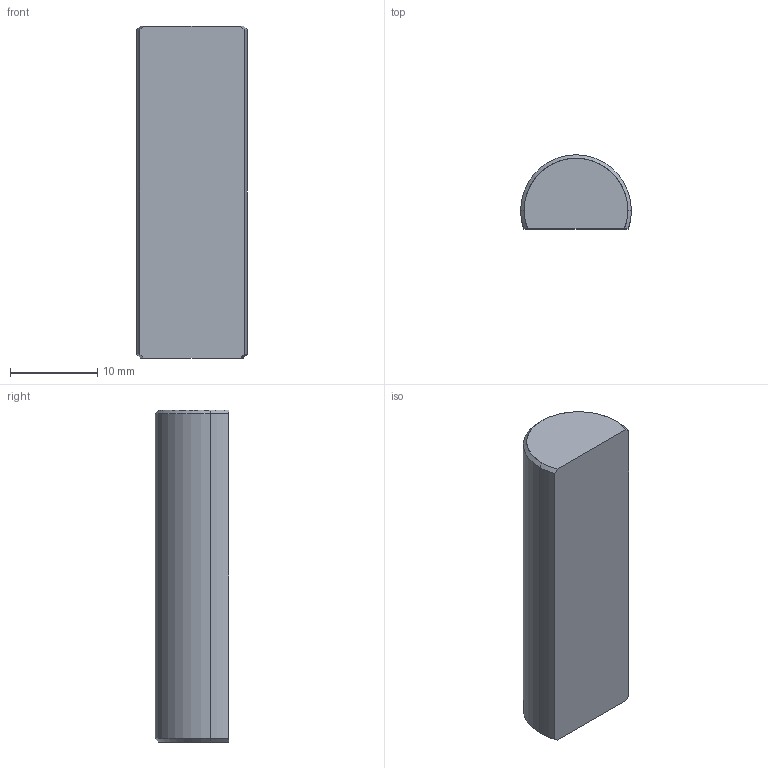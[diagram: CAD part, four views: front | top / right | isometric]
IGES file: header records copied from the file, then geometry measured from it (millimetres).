
Start section: SolidWorks IGES file using analytic representation for surfaces
Global section: file name: D:\Solid_parts\MECHeDESIGN\Bal-Tec\Catalog 105-A\Distribution\IGES\500-TC.IGS; native system: SolidWorks 2005 by SolidWorks Corporation; preprocessor: SolidWorks 2005 by SolidWorks Corporation; author: rvillegas; date: 061205.191216; units: inch
Bounding box: 12.7 x 8.48 x 38.1 mm (x, y, z)
Surface area: 1549.3 mm2 (no closed solid volume)
Topology: 0 solids, 0 shells, 12 faces, 86 edges, 86 vertices
Faces by surface type: revolution 9, bspline 3
